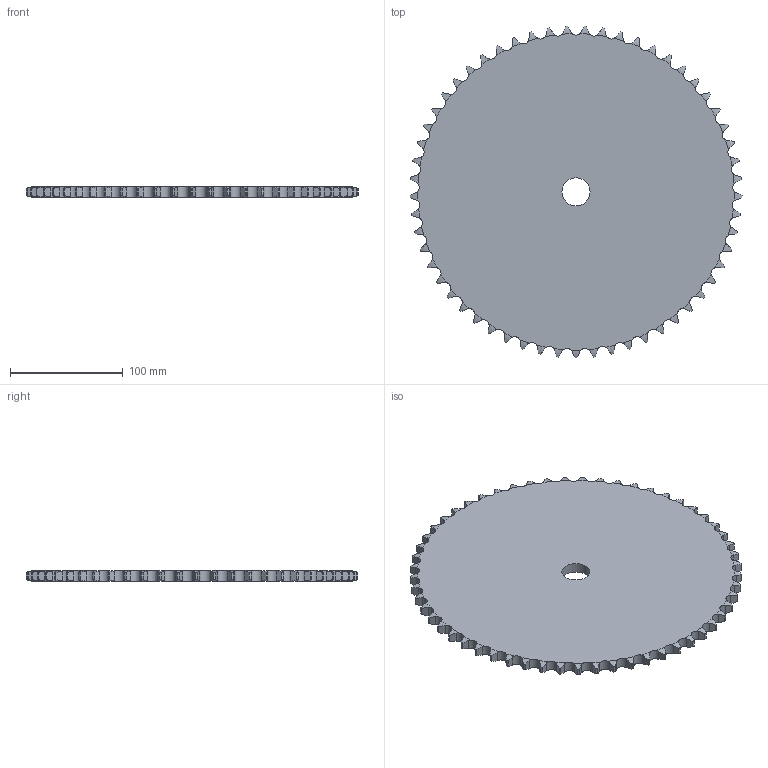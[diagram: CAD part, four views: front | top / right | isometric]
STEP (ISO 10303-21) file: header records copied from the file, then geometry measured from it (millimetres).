
FILE_DESCRIPTION((''),'2;1');
FILE_NAME('500-301-0057_PRT','2021-02-12T',('Brieden'),('Brieden'),'PRO/ENGINEER BY PARAMETRIC TECHNOLOGY CORPORATION, 2010160','PRO/ENGINEER BY PARAMETRIC TECHNOLOGY CORPORATION, 2010160','');
FILE_SCHEMA(('AUTOMOTIVE_DESIGN { 1 0 10303 214 1 1 1 1 }'));
Length unit declared in the file: millimetre
Products named in the file (1): 500-301-0057_PRT
Bounding box: 294.27 x 294.16 x 9.1 mm (x, y, z)
Volume: 571102.3 mm3; surface area: 138239.1 mm2
Topology: 1 solids, 1 shells, 346 faces, 1032 edges, 688 vertices
Faces by surface type: cylinder 230, torus 114, plane 2
Entity records: 17182 total; most frequent: CARTESIAN_POINT 5271, ORIENTED_EDGE 2064, DIRECTION 1614, PRESENTATION_STYLE_ASSIGNMENT 1033, STYLED_ITEM 1033, CURVE_STYLE 1032, EDGE_CURVE 1032, AXIS2_PLACEMENT_3D 692
